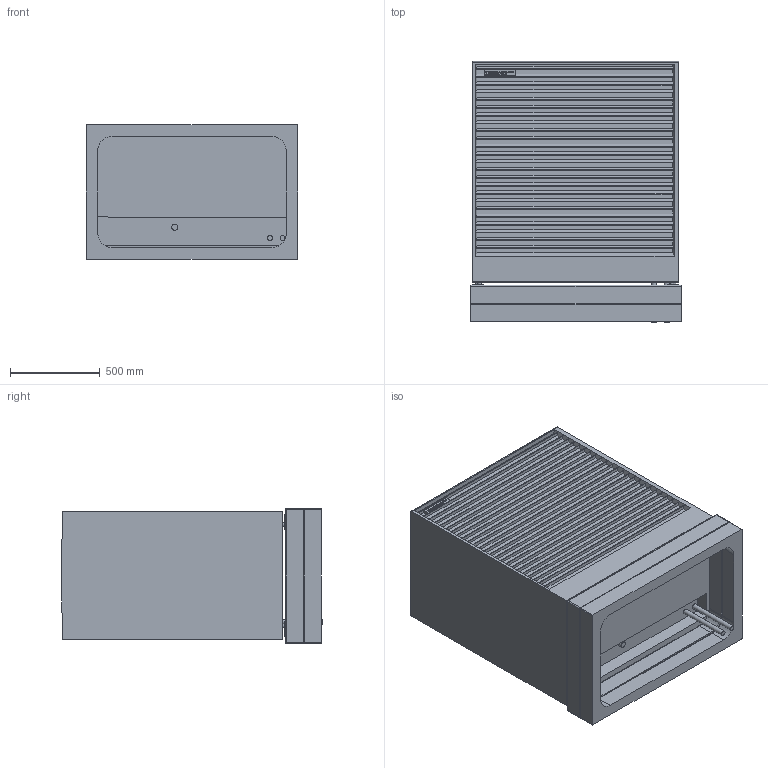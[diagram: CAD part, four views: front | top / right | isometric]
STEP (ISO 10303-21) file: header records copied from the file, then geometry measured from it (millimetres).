
FILE_DESCRIPTION (( 'STEP AP214' ), '1' );
FILE_NAME ('ADAPT 2 M,L_spodnji priklop + betonski temelj.STEP', '2026-03-13T08:27:22', ( '' ), ( '' ), 'SwSTEP 2.0', 'SolidWorks 2024', '' );
FILE_SCHEMA (( 'AUTOMOTIVE_DESIGN' ));
Length unit declared in the file: millimetre
Products named in the file (3): ADAPT 2 M,L_spodnji priklop + betonski temelj; ADAPT 2 (betonski temelj); ADAPT 2 M,L_Spodnji priklop
Assembly tree (3 placements, depth 2):
  ADAPT 2 M,L_spodnji priklop + betonski temelj
    ADAPT 2 (betonski temelj)  x2
    ADAPT 2 M,L_Spodnji priklop
Bounding box: 1180 x 1457.46 x 750 mm (x, y, z)
Volume: 991555065.6 mm3; surface area: 11314479.5 mm2
Topology: 3 solids, 3 shells, 623 faces, 1672 edges, 1092 vertices
Faces by surface type: plane 482, cylinder 69, bspline 64, sphere 8
Full cylindrical faces by diameter (mm): 10 x8, 13 x4, 19 x4, 28 x2, 34.029 x1
Entity records: 26578 total; most frequent: CARTESIAN_POINT 6404, ORIENTED_EDGE 3098, DIRECTION 2551, EDGE_CURVE 1549, VECTOR 1341, LINE 1341, VERTEX_POINT 1032, EDGE_LOOP 651
